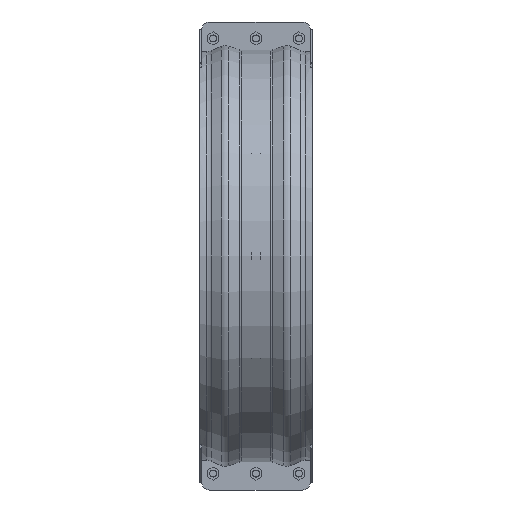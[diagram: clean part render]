
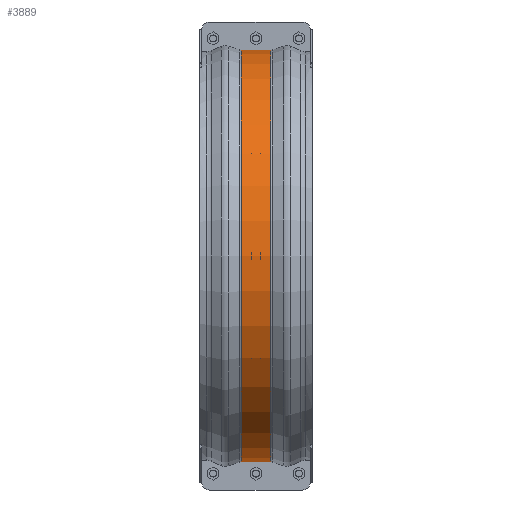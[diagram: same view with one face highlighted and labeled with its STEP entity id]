
A CAD part, front view. The second image highlights one B-rep face of the part: STEP entity #3889.
In plain terms, the highlighted cylindrical face has radius 464.249 mm (diameter 928.498 mm), a partial arc.
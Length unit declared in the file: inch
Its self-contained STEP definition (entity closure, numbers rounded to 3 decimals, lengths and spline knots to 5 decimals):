
#368=FACE_OUTER_BOUND('',#585,.T.);
#585=EDGE_LOOP('',(#2933,#2934,#2935,#2936));
#880=LINE('',#6045,#1229);
#882=LINE('',#6189,#1231);
#1229=VECTOR('',#4822,0.3937);
#1231=VECTOR('',#4876,0.3937);
#1463=CIRCLE('',#4169,18.27751);
#1465=CIRCLE('',#4173,18.27751);
#1724=VERTEX_POINT('',#6037);
#1725=VERTEX_POINT('',#6044);
#1740=VERTEX_POINT('',#6174);
#1742=VERTEX_POINT('',#6187);
#2159=EDGE_CURVE('',#1725,#1724,#880,.T.);
#2184=EDGE_CURVE('',#1740,#1725,#1463,.T.);
#2188=EDGE_CURVE('',#1742,#1724,#1465,.T.);
#2189=EDGE_CURVE('',#1742,#1740,#882,.T.);
#2933=ORIENTED_EDGE('',*,*,#2159,.T.);
#2934=ORIENTED_EDGE('',*,*,#2188,.F.);
#2935=ORIENTED_EDGE('',*,*,#2189,.T.);
#2936=ORIENTED_EDGE('',*,*,#2184,.T.);
#3566=CYLINDRICAL_SURFACE('',#4172,18.27751);
#3889=ADVANCED_FACE('',(#368),#3566,.T.);
#4169=AXIS2_PLACEMENT_3D('',#6175,#4865,#4866);
#4172=AXIS2_PLACEMENT_3D('',#6186,#4872,#4873);
#4173=AXIS2_PLACEMENT_3D('',#6188,#4874,#4875);
#4822=DIRECTION('',(1.,0.,0.));
#4865=DIRECTION('center_axis',(1.,0.,0.));
#4866=DIRECTION('ref_axis',(0.,0.,-1.));
#4872=DIRECTION('center_axis',(1.,0.,0.));
#4873=DIRECTION('ref_axis',(0.,-1.,0.));
#4874=DIRECTION('center_axis',(1.,0.,0.));
#4875=DIRECTION('ref_axis',(0.,0.,-1.));
#4876=DIRECTION('',(-1.,0.,0.));
#6037=CARTESIAN_POINT('',(1.31451,-0.375,-18.27367));
#6044=CARTESIAN_POINT('',(-1.31451,-0.375,-18.27367));
#6045=CARTESIAN_POINT('',(0.,-0.375,-18.27367));
#6174=CARTESIAN_POINT('',(-1.31451,-0.375,18.27367));
#6175=CARTESIAN_POINT('Origin',(-1.31451,0.,0.));
#6186=CARTESIAN_POINT('Origin',(0.,0.,0.));
#6187=CARTESIAN_POINT('',(1.31451,-0.375,18.27367));
#6188=CARTESIAN_POINT('Origin',(1.31451,0.,0.));
#6189=CARTESIAN_POINT('',(0.,-0.375,18.27367));
